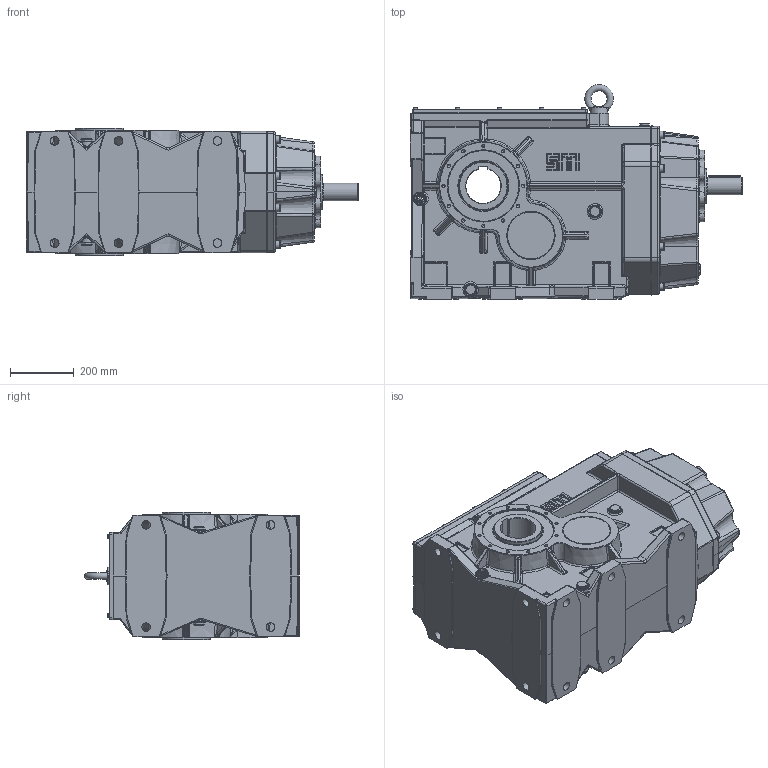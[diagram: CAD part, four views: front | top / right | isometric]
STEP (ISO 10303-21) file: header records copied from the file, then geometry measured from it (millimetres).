
FILE_DESCRIPTION((''),'2;1');
FILE_NAME('O:\Figurini\Figurini BH\3D\200\BH 200 C.stp','2013-05-27T09:02:04',('d.iannaccio'),(''),'Autodesk Inventor 2012','Autodesk Inventor 2012','');
FILE_SCHEMA(('AUTOMOTIVE_DESIGN { 1 0 10303 214 1 1 1 1 }'));
Length unit declared in the file: millimetre
Products named in the file (1): BH_200 C
Bounding box: 1040.5 x 672.91 x 400 mm (x, y, z)
Volume: 51109723.1 mm3; surface area: 5530694.9 mm2
Topology: 45 solids, 45 shells, 3436 faces, 8115 edges, 4792 vertices
Faces by surface type: cylinder 1085, plane 938, bspline 647, torus 342, cone 261, sphere 163
Full cylindrical faces by diameter (mm): 2.4 x1, 6.647 x12, 8 x24, 9 x12, 10 x18, 10.106 x26, 10.5 x2, 13 x12, 13.835 x9, 16 x8, 17 x3, 19.6 x1, 20 x2, 20.752 x1, 24 x9, 24.117 x8, 25 x1, 25.5 x8, 26 x1, 26.5 x2, 27 x10, 31 x7, 31.9 x1, 40 x1, 45 x1, 55 x2, 62 x2, 64.375 x1, 64.4 x1, 64.975 x2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
Entity records: 120757 total; most frequent: CARTESIAN_POINT 44357, DIRECTION 14798, ORIENTED_EDGE 14654, EDGE_CURVE 7327, AXIS2_PLACEMENT_3D 6061, VERTEX_POINT 4615, EDGE_LOOP 4206, STYLED_ITEM 3481
